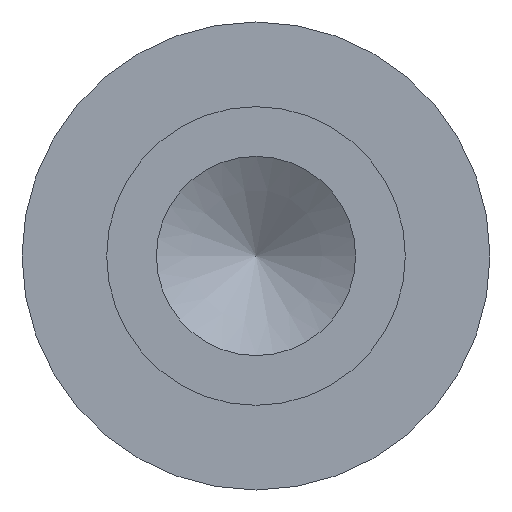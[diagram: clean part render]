
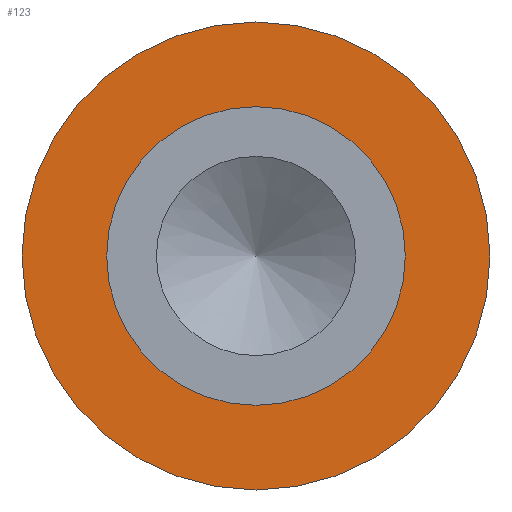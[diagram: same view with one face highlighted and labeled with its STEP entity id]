
A CAD part, left-side view. The second image highlights one B-rep face of the part: STEP entity #123.
In plain terms, the highlighted planar face has unit normal (-1, 0, 0).
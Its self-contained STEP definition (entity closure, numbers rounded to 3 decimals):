
#15=PLANE($,#147);
#24=FACE_BOUND($,#58,.T.);
#40=FACE_OUTER_BOUND($,#57,.T.);
#57=EDGE_LOOP($,(#107));
#58=EDGE_LOOP($,(#108));
#68=CIRCLE($,#143,1.194);
#69=CIRCLE($,#145,0.762);
#78=VERTEX_POINT($,#216);
#79=VERTEX_POINT($,#219);
#88=EDGE_CURVE($,#78,#78,#68,.T.);
#89=EDGE_CURVE($,#79,#79,#69,.T.);
#107=ORIENTED_EDGE($,*,*,#88,.F.);
#108=ORIENTED_EDGE($,*,*,#89,.T.);
#123=ADVANCED_FACE($,(#40,#24),#15,.T.);
#143=AXIS2_PLACEMENT_3D($,#217,#181,#182);
#145=AXIS2_PLACEMENT_3D($,#220,#185,#186);
#147=AXIS2_PLACEMENT_3D($,#223,#189,#190);
#181=DIRECTION('center_axis',(1.,0.,0.));
#182=DIRECTION('ref_axis',(0.,1.,0.));
#185=DIRECTION('center_axis',(1.,0.,0.));
#186=DIRECTION('ref_axis',(0.,1.,0.));
#189=DIRECTION('center_axis',(-1.,0.,0.));
#190=DIRECTION('ref_axis',(0.,0.,1.));
#216=CARTESIAN_POINT('',(3.96,1.194,0.));
#217=CARTESIAN_POINT('Origin',(3.96,0.,0.));
#219=CARTESIAN_POINT('',(3.96,0.762,0.));
#220=CARTESIAN_POINT('Origin',(3.96,0.,0.));
#223=CARTESIAN_POINT('Origin',(3.96,0.978,0.));
